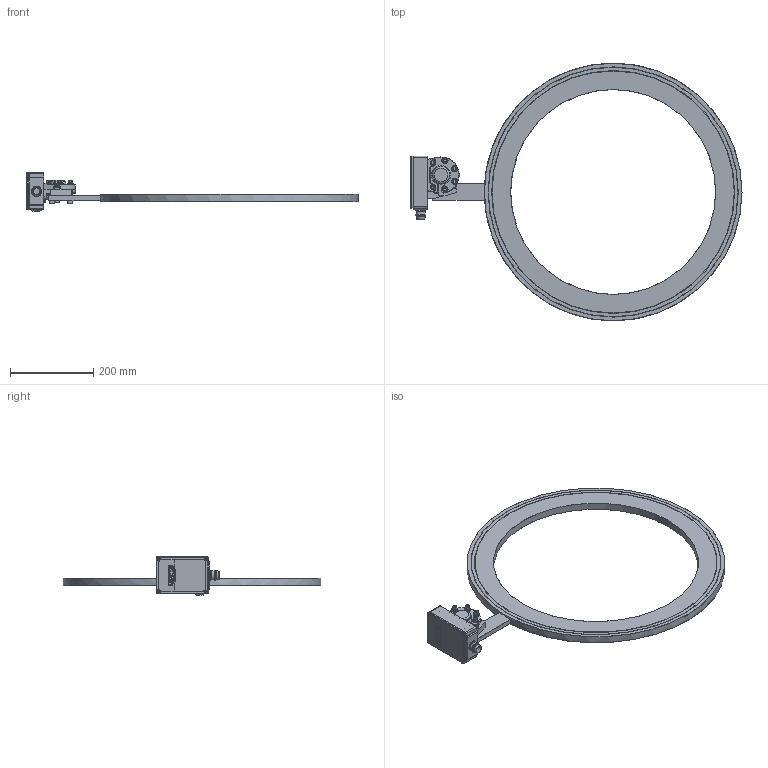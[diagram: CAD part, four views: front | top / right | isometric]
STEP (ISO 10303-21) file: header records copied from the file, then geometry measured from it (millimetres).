
FILE_DESCRIPTION(/* description */ ('Alibre Inc.'),/* implementation_level */ '2;1');
FILE_NAME(/* name */ 'export0',/* time_stamp */ '2012-10-19T13:18:31+02:00',/* author */ (''),/* organization */ (''),/* preprocessor_version */ 'ST-DEVELOPER v14',/* originating_system */ 'Alibre',/* authorisation */ '');
FILE_SCHEMA (('CONFIG_CONTROL_DESIGN'));
Length unit declared in the file: centimetre
Products named in the file (12): ID_1; ID_2; ID_3; ID_4; ID_5; ID_6; ID_7; ID_8; ID_9
Bounding box: 797.44 x 619 x 93.66 mm (x, y, z)
Volume: 2316735.4 mm3; surface area: 450749.5 mm2
Topology: 21 solids, 21 shells, 1082 faces, 2558 edges, 1586 vertices
Faces by surface type: plane 534, cylinder 231, bspline 162, cone 77, torus 70, sphere 8
Full cylindrical faces by diameter (mm): 3.9 x2, 5 x22, 5.5 x1, 5.541 x2, 6 x14, 6.038 x2, 6.5 x6, 8 x9, 8.5 x2, 9.6 x6, 10 x11, 10.5 x1, 12 x3, 13 x2, 14 x3, 16 x1, 17.966 x1, 19.5 x1, 22 x2, 22.5 x4, 29 x1, 31 x1, 492 x1, 582 x2, 583 x2, 600 x2, 601 x2, 619 x1
Entity records: 34223 total; most frequent: CARTESIAN_POINT 14014, ORIENTED_EDGE 3962, DIRECTION 3153, EDGE_CURVE 1981, VERTEX_POINT 1325, AXIS2_PLACEMENT_3D 1278, EDGE_LOOP 1158, FACE_BOUND 1158
